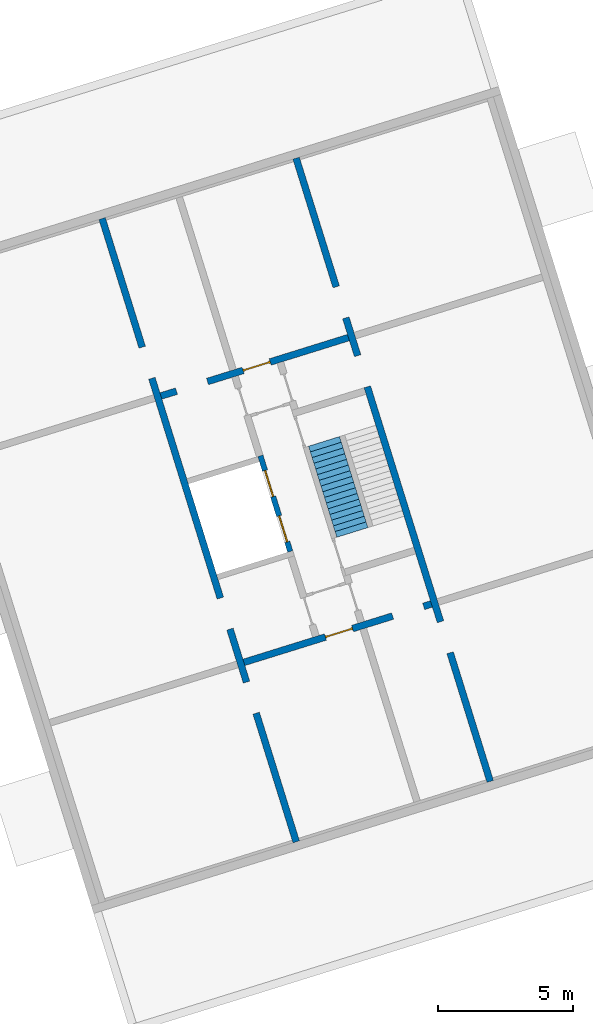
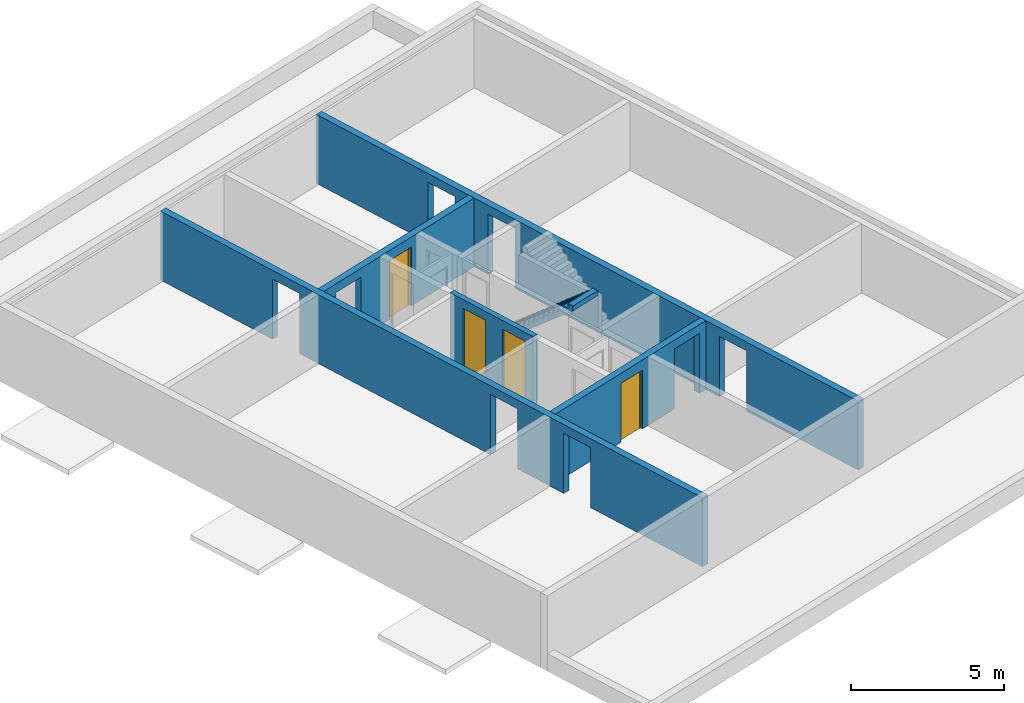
# One storey, part 3 of 4: 5 walls, 4 doors, 1 stair flight, 12 openings, 1 element without a shape of its own.
"""IFC4 building model written with IfcOpenShell, lengths in metres."""

from ifc_helpers import new_model, entity, si_unit, converted_unit, direction, frame, origin, place, context, subcontext, project, spatial, indexed_curve, outline, extrude, polygons, source, transform, mapped, material, constituent, constituent_set, type_object, type_shapes, element, fill, aggregate, save


model = new_model("IFC4")

# Units and contexts
model_context = context("Model", 3, precision=1e-05, world=origin(), true_north=direction((6.12323399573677e-17, 1.0)))
body_context = subcontext(model_context, "Body", "Model", "MODEL_VIEW")
ifc_project = project(units=[si_unit("LENGTHUNIT", "METRE"), si_unit("AREAUNIT", "SQUARE_METRE"), si_unit("VOLUMEUNIT", "CUBIC_METRE"), converted_unit("PLANEANGLEUNIT", "DEGREE", entity("IfcPlaneAngleMeasure", 0.0174532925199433), si_unit("PLANEANGLEUNIT", "RADIAN"), dimensions=[0, 0, 0, 0, 0, 0, 0])], contexts=[model_context])

# Site, building, storey
site_placement = place(None, frame((13.1347999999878, 11.9886000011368, 0.0), z_axis=(0.0, 0.0, 1.0), x_axis=(0.954770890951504, 0.297342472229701, 0.0)))
site = spatial("IfcSite", under=ifc_project, at=site_placement, Name="Schiehaven", CompositionType="ELEMENT")
building_placement = place(site_placement, origin())
building = spatial("IfcBuilding", under=site, at=building_placement, Name="VORM huis", CompositionType="ELEMENT")
storey_placement = place(building_placement, frame((0.0, 0.0, 6.9)))
storey = spatial("IfcBuildingStorey", under=building, at=storey_placement, Name="02 tweede verdieping", CompositionType="ELEMENT", Elevation=6.9)

# Wall, openings
ifc_material_1 = material(Name="beton_gewapend_ihw", Category="Miscellaneous")
wall_type_1 = type_object("IfcWallType", Name="Basic Wall:28_WA_skelet_wand 250mm_gen", PredefinedType="STANDARD")
wall_1_placement = place(storey_placement, frame((12.5, 5.0, 0.0), z_axis=(0.0, 0.0, 1.0), x_axis=(0.0, 1.0, 0.0)))
wall_1 = element("IfcWall", 1, at=wall_1_placement, inside=storey, type_object=wall_type_1, material=ifc_material_1, Name="Constructieve wand", ObjectType="Wand", PredefinedType="NOTDEFINED", context=body_context, shape_type="Tessellation", body=[
    polygons([(24.1, -0.125, 1.08286712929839e-15), (24.1, -0.125, 2.75), (17.325, -0.124999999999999, 2.75), (17.075, -0.125, 2.75), (7.025, -0.124999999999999, 2.75), (6.775, -0.125, 2.75), (2.16573425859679e-15, -0.124999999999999, 2.75), (2.16573425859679e-15, -0.124999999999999, 1.08286712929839e-15), (4.975, -0.124999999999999, 1.08286712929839e-15), (4.975, -0.124999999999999, 2.4), (6.175, -0.124999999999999, 2.4), (6.175, -0.124999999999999, 1.08286712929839e-15), (6.775, -0.125, 0.0), (7.025, -0.124999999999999, 0.0), (8.22500000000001, -0.124999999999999, 1.08286712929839e-15), (8.22500000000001, -0.124999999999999, 2.4), (9.425, -0.124999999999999, 2.4), (9.425, -0.124999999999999, 1.08286712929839e-15), (17.075, -0.125, 0.0), (17.325, -0.124999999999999, 0.0), (17.925, -0.125, 1.08286712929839e-15), (17.925, -0.125, 2.4), (19.125, -0.125, 2.4), (19.125, -0.125, 1.08286712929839e-15), (24.1, 0.125, 2.75), (24.1, 0.125, 1.08286712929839e-15), (19.125, 0.125, 1.08286712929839e-15), (19.125, 0.125, 2.4), (17.925, 0.125, 2.4), (17.925, 0.125, 1.08286712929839e-15), (9.425, 0.125, 1.08286712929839e-15), (9.425, 0.125, 2.4), (8.225, 0.125, 2.4), (8.225, 0.125, 1.08286712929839e-15), (6.175, 0.125, 1.08286712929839e-15), (6.175, 0.125, 2.4), (4.975, 0.125000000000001, 2.4), (4.975, 0.125000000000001, 1.08286712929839e-15), (1.08286712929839e-15, 0.125, 1.08286712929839e-15), (0.0, 0.125, 2.75)], [[[1, 2, 3, 4, 5, 6, 7, 8, 9, 10, 11, 12, 13, 14, 15, 16, 17, 18, 19, 20, 21, 22, 23, 24]], [[25, 26, 27, 28, 29, 30, 31, 32, 33, 34, 35, 36, 37, 38, 39, 40]], [[8, 39, 38, 9]], [[2, 1, 26, 25]], [[7, 6, 5, 4, 3, 2, 25, 40]], [[8, 7, 40, 39]], [[10, 37, 36, 11]], [[37, 10, 9, 38]], [[11, 36, 35, 12]], [[16, 33, 32, 17]], [[33, 16, 15, 34]], [[17, 32, 31, 18]], [[22, 29, 28, 23]], [[29, 22, 21, 30]], [[23, 28, 27, 24]], [[12, 35, 34, 15, 14, 13]], [[18, 31, 30, 21, 20, 19]], [[26, 1, 24, 27]]], closed=True),
])
opening_1_placement = place(wall_1_placement, origin())
element("IfcOpeningElement", 2, at=opening_1_placement, cuts=wall_1, Name="Constructieve wand", PredefinedType="OPENING", context=body_context, shape_type="SweptSolid", body=[
    extrude(outline(indexed_curve([(-1.2, -0.599999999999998), (1.2, -0.599999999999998), (1.2, 0.599999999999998), (-1.2, 0.599999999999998), (-1.2, -0.599999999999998)], self_intersect=False)), frame((5.575, -0.124999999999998, 1.2), z_axis=(0.0, 1.0, 0.0), x_axis=(0.0, 0.0, -1.0)), (0.0, 0.0, 1.0), 0.249999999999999),
])
opening_2_placement = place(wall_1_placement, origin())
element("IfcOpeningElement", 3, at=opening_2_placement, cuts=wall_1, Name="Constructieve wand", PredefinedType="OPENING", context=body_context, shape_type="SweptSolid", body=[
    extrude(outline(indexed_curve([(-1.2, -0.599999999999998), (1.2, -0.599999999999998), (1.2, 0.599999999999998), (-1.2, 0.599999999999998), (-1.2, -0.599999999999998)], self_intersect=False)), frame((8.82500000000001, -0.124999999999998, 1.2), z_axis=(0.0, 1.0, 0.0), x_axis=(0.0, 0.0, -1.0)), (0.0, 0.0, 1.0), 0.249999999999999),
])
opening_3_placement = place(wall_1_placement, origin())
element("IfcOpeningElement", 4, at=opening_3_placement, cuts=wall_1, Name="Constructieve wand", PredefinedType="OPENING", context=body_context, shape_type="SweptSolid", body=[
    extrude(outline(indexed_curve([(-1.2, -0.599999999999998), (1.2, -0.599999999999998), (1.2, 0.600000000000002), (-1.2, 0.600000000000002), (-1.2, -0.599999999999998)], self_intersect=False)), frame((18.525, -0.124999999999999, 1.2), z_axis=(0.0, 1.0, 0.0), x_axis=(0.0, 0.0, -1.0)), (0.0, 0.0, 1.0), 0.249999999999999),
])

# Wall, openings, door
wall_2_placement = place(storey_placement, frame((12.6250000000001, 22.2, 0.0)))
wall_2 = element("IfcWall", 5, at=wall_2_placement, inside=storey, type_object=wall_type_1, material=ifc_material_1, Name="Constructieve wand", ObjectType="Wand", PredefinedType="NOTDEFINED", context=body_context, shape_type="Tessellation", body=[
    polygons([(4.225, -0.124999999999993, 2.34999999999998), (4.225, -0.124999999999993, 1.08286712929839e-15), (7.25, -0.124999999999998, 1.08286712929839e-15), (7.25, -0.124999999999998, 2.75), (8.76648531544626e-16, -0.124999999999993, 2.75), (3.04238279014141e-15, -0.124999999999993, 1.08286712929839e-15), (0.600000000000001, -0.124999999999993, 1.08286712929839e-15), (0.600000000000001, -0.124999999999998, 2.4), (1.8, -0.124999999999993, 2.4), (1.8, -0.124999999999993, 1.08286712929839e-15), (3.175, -0.124999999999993, 1.08286712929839e-15), (3.175, -0.124999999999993, 2.34999999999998), (7.25000000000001, 0.125000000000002, 1.08286712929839e-15), (4.225, 0.125000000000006, 1.08286712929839e-15), (4.225, 0.125000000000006, 2.34999999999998), (3.175, 0.125000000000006, 2.34999999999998), (3.175, 0.125000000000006, 1.08286712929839e-15), (1.8, 0.125000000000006, 1.08286712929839e-15), (1.8, 0.125000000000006, 2.4), (0.6, 0.125000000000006, 2.4), (0.6, 0.125000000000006, 1.08286712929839e-15), (2.09575778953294e-15, 0.125000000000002, 1.08286712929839e-15), (2.09575778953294e-15, 0.125000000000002, 2.75), (7.25000000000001, 0.125000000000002, 2.75)], [[[1, 2, 3, 4, 5, 6, 7, 8, 9, 10, 11, 12]], [[13, 14, 15, 16, 17, 18, 19, 20, 21, 22, 23, 24]], [[6, 22, 21, 7]], [[5, 4, 24, 23]], [[17, 16, 12, 11]], [[15, 14, 2, 1]], [[16, 15, 1, 12]], [[20, 8, 7, 21]], [[9, 19, 18, 10]], [[8, 20, 19, 9]], [[6, 5, 23, 22]], [[4, 3, 13, 24]], [[11, 10, 18, 17]], [[3, 2, 14, 13]]], closed=True),
])
opening_4_placement = place(wall_2_placement, origin())
element("IfcOpeningElement", 6, at=opening_4_placement, cuts=wall_2, Name="Constructieve wand", PredefinedType="OPENING", context=body_context, shape_type="SweptSolid", body=[
    extrude(outline(indexed_curve([(-1.2, -0.6), (1.2, -0.6), (1.2, 0.6), (-1.2, 0.6), (-1.2, -0.6)], self_intersect=False)), frame((1.2, -0.125000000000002, 1.2), z_axis=(0.0, 1.0, 0.0), x_axis=(0.0, 0.0, -1.0)), (0.0, 0.0, 1.0), 0.250000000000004),
])
opening_5_placement = place(wall_2_placement, frame((4.225, 0.124999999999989, 0.0)))
opening_5 = element("IfcOpeningElement", 7, at=opening_5_placement, cuts=wall_2, Name="Woningtoegangsdeur", PredefinedType="OPENING", context=body_context, shape_type="SweptSolid", body=[
    extrude(outline(indexed_curve([(2.34999999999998, 1.05), (0.0, 1.05), (0.0, 1.08286712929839e-15), (2.34999999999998, 1.08286712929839e-15), (2.34999999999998, 1.05)], self_intersect=False)), frame((0.0, 0.0, 0.0), z_axis=(0.0, -1.0, 0.0), x_axis=(0.0, 0.0, 1.0)), (0.0, 0.0, 1.0), 0.25),
])
ifc_material_2 = material(Name="PD_a_binnenwandopeningen", Category="Miscellaneous")
ifc_constituent_1 = constituent(ifc_material_2, Name="PD_a_binnenwandopeningen", Category="Miscellaneous")
ifc_material_3 = material(Name="metaal_aluminium_ntb", Category="Miscellaneous")
ifc_constituent_2 = constituent(ifc_material_3, Name="metaal_aluminium_ntb", Category="Miscellaneous")
ifc_constituent_set_1 = constituent_set(constituents=[ifc_constituent_1, ifc_constituent_2])
ifc_constituent_3 = constituent(ifc_material_2, Name="PD_a_binnenwandopeningen", Category="Miscellaneous")
ifc_constituent_4 = constituent(ifc_material_3, Name="Panel", Category="Miscellaneous")
ifc_constituent_set_2 = constituent_set(constituents=[ifc_constituent_3, ifc_constituent_4])
door_type_1 = type_object("IfcDoorType", Name="32_DO_binnendeur enkel:woningtoegangsdeur", OperationType="REVOLVING", PredefinedType="DOOR", material=ifc_constituent_set_2)
shared_shape_1 = source(origin(), body_context, "Body", "SweptSolid", [
    extrude(outline(indexed_curve([(-1.16249999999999, -0.525000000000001), (1.18749999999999, -0.525), (1.18749999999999, 0.525000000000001), (-1.16249999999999, 0.525000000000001), (-1.16249999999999, 0.475), (1.13749999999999, 0.475), (1.13749999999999, -0.475), (-1.16249999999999, -0.475), (-1.16249999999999, -0.525000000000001)], self_intersect=False)), frame((0.525000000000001, 0.0749999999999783, 1.16249999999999), z_axis=(0.0, 1.0, 0.0), x_axis=(0.0, 0.0, 1.0)), (0.0, 0.0, 1.0), 0.1),
    extrude(outline(indexed_curve([(-0.025, -0.475), (0.025, -0.475), (0.025, 0.475), (-0.025, 0.475), (-0.025, -0.475)], self_intersect=False)), frame((0.525000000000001, 0.12499999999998, 0.0), z_axis=(0.0, 0.0, 1.0), x_axis=(0.0, 1.0, 0.0)), (0.0, 0.0, 1.0), 2.29999999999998),
])
type_shapes(door_type_1, [shared_shape_1])
door_1_placement = place(opening_5_placement, frame((0.0, 0.0, 0.0), z_axis=(0.0, 0.0, 1.0), x_axis=(-1.0, 0.0, 0.0)))
door_1 = element("IfcDoor", 8, at=door_1_placement, inside=storey, type_object=door_type_1, material=ifc_constituent_set_1, Name="Woningtoegangsdeur", ObjectType="Deur", OperationType="REVOLVING", OverallHeight=2.34999999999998, OverallWidth=1.05, PredefinedType="DOOR", context=body_context, shape_type="MappedRepresentation", body=[
    mapped(shared_shape_1, transform((0.0, 0.0, 0.0), scale=1.0)),
])
fill(opening_5, door_1)

# Wall, openings
wall_3_placement = place(storey_placement, frame((20.0, 29.1, 0.0), z_axis=(0.0, 0.0, 1.0), x_axis=(0.0, -1.0, 0.0)))
wall_3 = element("IfcWall", 9, at=wall_3_placement, inside=storey, type_object=wall_type_1, material=ifc_material_1, Name="Constructieve wand", ObjectType="Wand", PredefinedType="NOTDEFINED", context=body_context, shape_type="Tessellation", body=[
    polygons([(24.1, -0.124999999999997, 1.08286712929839e-15), (24.1, -0.124999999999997, 2.75), (17.325, -0.124999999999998, 2.75), (17.075, -0.125, 2.75), (7.02499999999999, -0.124999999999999, 2.75), (6.77499999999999, -0.124999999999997, 2.75), (0.0, -0.124999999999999, 2.75), (0.0, -0.124999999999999, 1.08286712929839e-15), (4.975, -0.125, 1.08286712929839e-15), (4.975, -0.125000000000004, 2.4), (6.175, -0.124999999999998, 2.4), (6.175, -0.124999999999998, 1.08286712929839e-15), (6.77499999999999, -0.124999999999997, 0.0), (7.02499999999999, -0.124999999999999, 0.0), (7.64, -0.124999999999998, 1.08286712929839e-15), (7.64, -0.124999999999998, 2.4), (8.84, -0.124999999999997, 2.4), (8.84, -0.124999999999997, 1.08286712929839e-15), (17.075, -0.125, 0.0), (17.325, -0.124999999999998, 0.0), (17.925, -0.124999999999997, 1.08286712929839e-15), (17.925, -0.124999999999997, 2.4), (19.125, -0.125000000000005, 2.4), (19.125, -0.124999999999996, 1.08286712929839e-15), (24.1, 0.125000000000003, 2.75), (24.1, 0.125000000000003, 1.08286712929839e-15), (19.125, 0.124999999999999, 1.08286712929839e-15), (19.125, 0.124999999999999, 2.4), (17.925, 0.125000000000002, 2.4), (17.925, 0.125000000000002, 1.08286712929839e-15), (8.83999999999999, 0.125000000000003, 1.08286712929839e-15), (8.83999999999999, 0.125000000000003, 2.4), (7.64, 0.125000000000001, 2.4), (7.64, 0.125000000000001, 1.08286712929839e-15), (6.17499999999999, 0.125000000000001, 1.08286712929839e-15), (6.17499999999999, 0.125000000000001, 2.4), (4.975, 0.125, 2.4), (4.975, 0.125, 1.08286712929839e-15), (-4.33146851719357e-15, 0.125000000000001, 1.08286712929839e-15), (-4.33146851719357e-15, 0.125000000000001, 2.75)], [[[1, 2, 3, 4, 5, 6, 7, 8, 9, 10, 11, 12, 13, 14, 15, 16, 17, 18, 19, 20, 21, 22, 23, 24]], [[25, 26, 27, 28, 29, 30, 31, 32, 33, 34, 35, 36, 37, 38, 39, 40]], [[8, 39, 38, 9]], [[2, 1, 26, 25]], [[7, 6, 5, 4, 3, 2, 25, 40]], [[8, 7, 40, 39]], [[10, 37, 36, 11]], [[37, 10, 9, 38]], [[11, 36, 35, 12]], [[16, 33, 32, 17]], [[33, 16, 15, 34]], [[17, 32, 31, 18]], [[22, 29, 28, 23]], [[29, 22, 21, 30]], [[23, 28, 27, 24]], [[12, 35, 34, 15, 14, 13]], [[18, 31, 30, 21, 20, 19]], [[26, 1, 24, 27]]], closed=True),
])
opening_6_placement = place(wall_3_placement, origin())
element("IfcOpeningElement", 10, at=opening_6_placement, cuts=wall_3, Name="Constructieve wand", PredefinedType="OPENING", context=body_context, shape_type="SweptSolid", body=[
    extrude(outline(indexed_curve([(-1.2, -0.599999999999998), (1.2, -0.599999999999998), (1.2, 0.599999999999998), (-1.2, 0.599999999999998), (-1.2, -0.599999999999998)], self_intersect=False)), frame((5.575, -0.125000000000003, 1.2), z_axis=(0.0, 1.0, 0.0), x_axis=(0.0, 0.0, -1.0)), (0.0, 0.0, 1.0), 0.250000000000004),
])
opening_7_placement = place(wall_3_placement, origin())
element("IfcOpeningElement", 11, at=opening_7_placement, cuts=wall_3, Name="Constructieve wand", PredefinedType="OPENING", context=body_context, shape_type="SweptSolid", body=[
    extrude(outline(indexed_curve([(-1.2, -0.599999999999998), (1.2, -0.599999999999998), (1.2, 0.599999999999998), (-1.2, 0.599999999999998), (-1.2, -0.599999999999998)], self_intersect=False)), frame((8.24, -0.125000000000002, 1.2), z_axis=(0.0, 1.0, 0.0), x_axis=(0.0, 0.0, -1.0)), (0.0, 0.0, 1.0), 0.250000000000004),
])
opening_8_placement = place(wall_3_placement, origin())
element("IfcOpeningElement", 12, at=opening_8_placement, cuts=wall_3, Name="Constructieve wand", PredefinedType="OPENING", context=body_context, shape_type="SweptSolid", body=[
    extrude(outline(indexed_curve([(-1.2, -0.599999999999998), (1.2, -0.599999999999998), (1.2, 0.599999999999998), (-1.2, 0.599999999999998), (-1.2, -0.599999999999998)], self_intersect=False)), frame((18.525, -0.125000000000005, 1.2), z_axis=(0.0, 1.0, 0.0), x_axis=(0.0, 0.0, -1.0)), (0.0, 0.0, 1.0), 0.250000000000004),
])

# Wall, openings, door
wall_4_placement = place(storey_placement, frame((19.875, 11.9, 0.0), z_axis=(0.0, 0.0, 1.0), x_axis=(-1.0, 0.0, 0.0)))
wall_4 = element("IfcWall", 13, at=wall_4_placement, inside=storey, type_object=wall_type_1, material=ifc_material_1, Name="Constructieve wand", ObjectType="Wand", PredefinedType="NOTDEFINED", context=body_context, shape_type="Tessellation", body=[
    polygons([(4.09999999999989, -0.125, 2.34999999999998), (4.09999999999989, -0.125, 1.08286712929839e-15), (7.24999999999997, -0.125, 1.08286712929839e-15), (7.24999999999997, -0.125, 2.75), (-7.13030427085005e-16, -0.125, 2.75), (-7.13030427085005e-16, -0.125, 1.08286712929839e-15), (0.299999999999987, -0.125, 1.08286712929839e-15), (0.299999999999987, -0.125, 2.4), (1.49999999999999, -0.125, 2.4), (1.49999999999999, -0.125, 1.08286712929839e-15), (3.04999999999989, -0.125, 1.08286712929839e-15), (3.04999999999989, -0.125, 2.34999999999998), (7.24999999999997, 0.125, 1.08286712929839e-15), (4.09999999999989, 0.125, 1.08286712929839e-15), (4.09999999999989, 0.125, 2.34999999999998), (3.04999999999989, 0.125, 2.34999999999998), (3.04999999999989, 0.125, 1.08286712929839e-15), (1.49999999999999, 0.125, 1.08286712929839e-15), (1.49999999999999, 0.125, 2.4), (0.299999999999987, 0.125, 2.4), (0.299999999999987, 0.125, 1.08286712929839e-15), (-8.78309150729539e-16, 0.125, 1.08286712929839e-15), (-8.78309150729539e-16, 0.125, 2.75), (7.24999999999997, 0.125, 2.75)], [[[1, 2, 3, 4, 5, 6, 7, 8, 9, 10, 11, 12]], [[13, 14, 15, 16, 17, 18, 19, 20, 21, 22, 23, 24]], [[6, 22, 21, 7]], [[5, 4, 24, 23]], [[17, 16, 12, 11]], [[15, 14, 2, 1]], [[16, 15, 1, 12]], [[4, 3, 13, 24]], [[6, 5, 23, 22]], [[8, 20, 19, 9]], [[20, 8, 7, 21]], [[9, 19, 18, 10]], [[11, 10, 18, 17]], [[3, 2, 14, 13]]], closed=True),
])
opening_9_placement = place(wall_4_placement, origin())
element("IfcOpeningElement", 14, at=opening_9_placement, cuts=wall_4, Name="Constructieve wand", PredefinedType="OPENING", context=body_context, shape_type="SweptSolid", body=[
    extrude(outline(indexed_curve([(-1.2, -0.599999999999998), (1.2, -0.599999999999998), (1.2, 0.600000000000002), (-1.2, 0.600000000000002), (-1.2, -0.599999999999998)], self_intersect=False)), frame((0.89999999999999, -0.125, 1.2), z_axis=(0.0, 1.0, 0.0), x_axis=(0.0, 0.0, -1.0)), (0.0, 0.0, 1.0), 0.249999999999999),
])
opening_10_placement = place(wall_4_placement, frame((4.09999999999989, 0.124999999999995, 0.0)))
opening_10 = element("IfcOpeningElement", 15, at=opening_10_placement, cuts=wall_4, Name="Woningtoegangsdeur", PredefinedType="OPENING", context=body_context, shape_type="SweptSolid", body=[
    extrude(outline(indexed_curve([(2.34999999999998, 1.05), (0.0, 1.05), (0.0, 1.08286712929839e-15), (2.34999999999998, 1.08286712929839e-15), (2.34999999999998, 1.05)], self_intersect=False)), frame((0.0, 0.0, 0.0), z_axis=(0.0, -1.0, 0.0), x_axis=(0.0, 0.0, 1.0)), (0.0, 0.0, 1.0), 0.25),
])
ifc_constituent_5 = constituent(ifc_material_2, Name="PD_a_binnenwandopeningen", Category="Miscellaneous")
ifc_constituent_6 = constituent(ifc_material_3, Name="metaal_aluminium_ntb", Category="Miscellaneous")
ifc_constituent_set_3 = constituent_set(constituents=[ifc_constituent_5, ifc_constituent_6])
door_2_placement = place(opening_10_placement, frame((0.0, 0.0, 0.0), z_axis=(0.0, 0.0, 1.0), x_axis=(-1.0, 0.0, 0.0)))
door_2 = element("IfcDoor", 16, at=door_2_placement, inside=storey, type_object=door_type_1, material=ifc_constituent_set_3, Name="Woningtoegangsdeur", ObjectType="Deur", OperationType="REVOLVING", OverallHeight=2.34999999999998, OverallWidth=1.05, PredefinedType="DOOR", context=body_context, shape_type="MappedRepresentation", body=[
    mapped(shared_shape_1, transform((0.0, 0.0, 0.0), scale=1.0)),
])
fill(opening_10, door_2)

# Wall, openings, doors
ifc_material_4 = material(Name="beton_gewapend_prefab-element", Category="Miscellaneous")
wall_type_2 = type_object("IfcWallType", Name="Basic Wall:28_WA_skelet_wand 200mm_gen", PredefinedType="STANDARD")
wall_5_placement = place(storey_placement, frame((15.4750000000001, 15.3, 0.0), z_axis=(0.0, 0.0, 1.0), x_axis=(0.0, 1.0, 0.0)))
wall_5 = element("IfcWall", 17, at=wall_5_placement, inside=storey, type_object=wall_type_2, material=ifc_material_4, Name="Constructieve wand", ObjectType="Wand", PredefinedType="NOTDEFINED", context=body_context, shape_type="Tessellation", body=[
    polygons([(3.69999999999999, -0.100000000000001, 2.75), (0.0, -0.100000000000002, 2.75), (0.0, -0.100000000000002, 1.08286712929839e-15), (0.374999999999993, -0.0999999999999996, 1.08286712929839e-15), (0.374999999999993, -0.100000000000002, 2.39999999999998), (1.37499999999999, -0.100000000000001, 2.39999999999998), (1.37499999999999, -0.100000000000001, 1.08286712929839e-15), (2.125, -0.100000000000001, 1.08286712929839e-15), (2.125, -0.100000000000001, 2.39999999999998), (3.125, -0.100000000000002, 2.39999999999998), (3.12499999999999, -0.1, 1.08286712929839e-15), (3.69999999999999, -0.100000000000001, 1.08286712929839e-15), (2.16573425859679e-15, 0.0999999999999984, 2.75), (3.49999999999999, 0.0999999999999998, 2.75), (3.69999999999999, 0.0999999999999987, 2.75), (3.69999999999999, 0.0999999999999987, 1.08286712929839e-15), (3.49999999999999, 0.0999999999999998, 0.0), (3.125, 0.0999999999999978, 1.08286712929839e-15), (3.125, 0.0999999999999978, 2.39999999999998), (2.125, 0.0999999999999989, 2.39999999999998), (2.125, 0.0999999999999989, 1.08286712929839e-15), (1.37499999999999, 0.100000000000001, 1.08286712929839e-15), (1.37499999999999, 0.100000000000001, 2.39999999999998), (0.374999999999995, 0.0999999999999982, 2.39999999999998), (0.374999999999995, 0.0999999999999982, 1.08286712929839e-15), (0.0, 0.0999999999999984, 1.08286712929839e-15)], [[[1, 2, 3, 4, 5, 6, 7, 8, 9, 10, 11, 12]], [[13, 14, 15, 16, 17, 18, 19, 20, 21, 22, 23, 24, 25, 26]], [[3, 26, 25, 4]], [[2, 1, 15, 14, 13]], [[3, 2, 13, 26]], [[1, 12, 16, 15]], [[6, 23, 22, 7]], [[24, 5, 4, 25]], [[23, 6, 5, 24]], [[10, 19, 18, 11]], [[20, 9, 8, 21]], [[19, 10, 9, 20]], [[7, 22, 21, 8]], [[16, 12, 11, 18, 17]]], closed=True),
])
opening_11_placement = place(wall_5_placement, frame((-15.3, 15.4750000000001, 0.0), z_axis=(0.0, 0.0, 1.0), x_axis=(0.0, -1.0, 0.0)))
opening_11 = element("IfcOpeningElement", 18, at=opening_11_placement, cuts=wall_5, Name="Brandweerlift", PredefinedType="OPENING", context=body_context, shape_type="SweptSolid", body=[
    extrude(outline(indexed_curve([(-1.19999999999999, -0.499999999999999), (1.19999999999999, -0.499999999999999), (1.19999999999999, 0.500000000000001), (-1.19999999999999, 0.500000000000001), (-1.19999999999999, -0.499999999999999)], self_intersect=False)), frame((15.7436720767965, 16.175, 1.19999999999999), z_axis=(-1.0, 0.0, 0.0), x_axis=(0.0, 0.0, -1.0)), (0.0, 0.0, 1.0), 0.756310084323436),
])
opening_12_placement = place(wall_5_placement, frame((-15.3, 15.4750000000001, 0.0), z_axis=(0.0, 0.0, 1.0), x_axis=(0.0, -1.0, 0.0)))
opening_12 = element("IfcOpeningElement", 19, at=opening_12_placement, cuts=wall_5, Name="Brandweerlift", PredefinedType="OPENING", context=body_context, shape_type="SweptSolid", body=[
    extrude(outline(indexed_curve([(-1.19999999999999, -0.500000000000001), (1.19999999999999, -0.500000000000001), (1.19999999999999, 0.499999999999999), (-1.19999999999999, 0.499999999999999), (-1.19999999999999, -0.500000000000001)], self_intersect=False)), frame((15.7436720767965, 17.925, 1.19999999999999), z_axis=(-1.0, 0.0, 0.0), x_axis=(0.0, 0.0, -1.0)), (0.0, 0.0, 1.0), 0.756310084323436),
])
door_type_2 = type_object("IfcDoorType", Name="66_WI_liftdeur:brandweerlift - tweezijdig toegankelijk", OperationType="NOTDEFINED", PredefinedType="DOOR", material=ifc_material_3)
shared_shape_2 = source(origin(), body_context, "Body", "SweptSolid", [
    extrude(outline(indexed_curve([(-0.0250000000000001, -0.25), (0.0249999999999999, -0.25), (0.0250000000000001, 0.25), (-0.0249999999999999, 0.25), (-0.0250000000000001, -0.25)], self_intersect=False)), frame((0.250000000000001, 0.487638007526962, 0.0), z_axis=(0.0, 0.0, 1.0), x_axis=(0.0, 1.0, 0.0)), (0.0, 0.0, 1.0), 2.39999999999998),
    extrude(outline(indexed_curve([(-0.0250000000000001, -0.25), (0.0249999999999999, -0.25), (0.0250000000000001, 0.25), (-0.0249999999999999, 0.25), (-0.0250000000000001, -0.25)], self_intersect=False)), frame((0.750000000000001, 0.48763800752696, 0.0), z_axis=(0.0, 0.0, 1.0), x_axis=(0.0, 1.0, 0.0)), (0.0, 0.0, 1.0), 2.39999999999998),
])
type_shapes(door_type_2, [shared_shape_2])
door_3_placement = place(opening_11_placement, frame((14.9873619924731, 16.675, 0.0), z_axis=(0.0, 0.0, 1.0), x_axis=(0.0, -1.0, 0.0)))
door_3 = element("IfcDoor", 20, at=door_3_placement, inside=storey, type_object=door_type_2, material=ifc_material_3, Name="Brandweerlift", ObjectType="Transport", OperationType="NOTDEFINED", OverallHeight=2.39999999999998, OverallWidth=1.0, PredefinedType="DOOR", context=body_context, shape_type="MappedRepresentation", body=[
    mapped(shared_shape_2, transform((0.0, 0.0, 0.0), scale=1.0)),
])
fill(opening_11, door_3)
door_4_placement = place(opening_12_placement, frame((14.9873619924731, 18.425, 0.0), z_axis=(0.0, 0.0, 1.0), x_axis=(0.0, -1.0, 0.0)))
door_4 = element("IfcDoor", 21, at=door_4_placement, inside=storey, type_object=door_type_2, material=ifc_material_3, Name="Brandweerlift", ObjectType="Transport", OperationType="NOTDEFINED", OverallHeight=2.39999999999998, OverallWidth=1.0, PredefinedType="DOOR", context=body_context, shape_type="MappedRepresentation", body=[
    mapped(shared_shape_2, transform((0.0, 0.0, 0.0), scale=1.0)),
])
fill(opening_12, door_4)

# Stair, stair flight
stair_type = type_object("IfcStairType", Name="Trap", PredefinedType="STRAIGHT_RUN_STAIR")
stair_placement = place(storey_placement, origin())
stair = element("IfcStair", 22, at=stair_placement, inside=storey, type_object=stair_type, Name="Hoofdtrap", ObjectType="Trap", PredefinedType="STRAIGHT_RUN_STAIR")
stair_flight_type = type_object("IfcStairFlightType", Name="Monolithic Run:NLRS_24_STRR_trap-beton prefab-monolithisch-recht_gen_rsf", PredefinedType="STRAIGHT")
stair_flight_placement = place(stair_placement, frame((17.2750000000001, 15.29, 0.0)))
stair_flight = element("IfcStairFlight", 23, at=stair_flight_placement, type_object=stair_flight_type, material=ifc_material_4, Name="Hoofdtrap Run 1", ObjectType="Monolithic Run:NLRS_24_STRR_trap-beton prefab-monolithisch-recht_gen_rsf", PredefinedType="STRAIGHT", context=body_context, shape_type="Tessellation", body=[
    polygons([(1.20000000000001, 3.3, 0.1875), (1.20000000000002, 3.52, 0.1875), (1.77635683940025e-14, 3.52, 0.1875), (1.77635683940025e-14, 3.30000000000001, 0.1875), (1.20000000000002, 3.29999999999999, 1.77635683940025e-15), (1.20000000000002, 3.52, 1.77635683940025e-15), (1.77635683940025e-14, 3.52, 1.77635683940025e-15), (1.77635683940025e-14, 3.30000000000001, 1.77635683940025e-15), (1.20000000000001, 3.08, 0.375000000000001), (1.20000000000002, 3.30000000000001, 0.375000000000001), (1.77635683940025e-14, 3.30000000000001, 0.375000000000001), (1.77635683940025e-14, 3.08000000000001, 0.375000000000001), (1.20000000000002, 3.08000000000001, 0.177912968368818), (1.20000000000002, 3.28875121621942, 1.77635683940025e-15), (1.77635683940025e-14, 3.28875121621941, 1.77635683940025e-15), (1.77635683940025e-14, 3.08000000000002, 0.177912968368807), (1.20000000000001, 2.86, 0.5625), (1.20000000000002, 3.08, 0.5625), (1.4210854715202e-14, 3.08, 0.5625), (1.4210854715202e-14, 2.86000000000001, 0.5625), (1.20000000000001, 2.86, 0.365412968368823), (1.4210854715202e-14, 2.86000000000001, 0.36541296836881), (1.20000000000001, 2.64, 0.750000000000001), (1.20000000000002, 2.86000000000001, 0.750000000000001), (1.4210854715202e-14, 2.86000000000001, 0.750000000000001), (1.4210854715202e-14, 2.64000000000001, 0.750000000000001), (1.20000000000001, 2.64, 0.55291296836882), (1.4210854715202e-14, 2.64000000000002, 0.552912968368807), (1.20000000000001, 2.42, 0.937500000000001), (1.20000000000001, 2.64, 0.937500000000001), (1.06581410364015e-14, 2.64, 0.937500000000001), (1.06581410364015e-14, 2.42000000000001, 0.937500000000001), (1.20000000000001, 2.41999999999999, 0.740412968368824), (1.06581410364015e-14, 2.42000000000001, 0.740412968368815), (1.20000000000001, 2.2, 1.125), (1.20000000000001, 2.42000000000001, 1.125), (1.06581410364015e-14, 2.42000000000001, 1.125), (1.06581410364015e-14, 2.20000000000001, 1.125), (1.20000000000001, 2.2, 0.927912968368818), (1.06581410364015e-14, 2.20000000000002, 0.927912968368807), (1.20000000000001, 1.98, 1.3125), (1.20000000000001, 2.2, 1.3125), (1.06581410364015e-14, 2.2, 1.3125), (1.06581410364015e-14, 1.98000000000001, 1.3125), (1.20000000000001, 1.97999999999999, 1.11541296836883), (1.06581410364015e-14, 1.98000000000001, 1.11541296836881), (1.20000000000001, 1.76, 1.5), (1.20000000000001, 1.98000000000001, 1.5), (1.06581410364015e-14, 1.98000000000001, 1.5), (1.06581410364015e-14, 1.76000000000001, 1.5), (1.20000000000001, 1.76000000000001, 1.30291296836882), (7.105427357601e-15, 1.76000000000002, 1.30291296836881), (1.20000000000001, 1.54, 1.6875), (1.20000000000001, 1.76, 1.6875), (7.105427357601e-15, 1.76, 1.6875), (7.105427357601e-15, 1.54000000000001, 1.6875), (1.2, 1.54, 1.49041296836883), (7.105427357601e-15, 1.54000000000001, 1.49041296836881), (1.20000000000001, 1.32, 1.875), (1.20000000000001, 1.54000000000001, 1.875), (7.105427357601e-15, 1.54000000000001, 1.875), (7.105427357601e-15, 1.32000000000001, 1.875), (1.2, 1.32, 1.67791296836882), (7.105427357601e-15, 1.32000000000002, 1.67791296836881), (1.2, 1.1, 2.0625), (1.2, 1.32, 2.0625), (7.105427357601e-15, 1.32, 2.0625), (7.105427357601e-15, 1.10000000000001, 2.0625), (1.2, 1.1, 1.86541296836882), (7.105427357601e-15, 1.10000000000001, 1.86541296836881), (1.2, 0.880000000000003, 2.25), (1.2, 1.10000000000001, 2.25), (7.105427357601e-15, 1.10000000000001, 2.25), (7.105427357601e-15, 0.88000000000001, 2.25), (1.2, 0.880000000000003, 2.05291296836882), (7.105427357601e-15, 0.880000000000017, 2.05291296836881), (1.2, 0.660000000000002, 2.4375), (1.2, 0.880000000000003, 2.4375), (3.5527136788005e-15, 0.880000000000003, 2.4375), (3.5527136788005e-15, 0.660000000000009, 2.4375), (1.2, 0.659999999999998, 2.24041296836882), (3.5527136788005e-15, 0.660000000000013, 2.24041296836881), (1.2, 0.440000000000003, 2.625), (1.2, 0.660000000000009, 2.625), (3.5527136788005e-15, 0.660000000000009, 2.625), (3.5527136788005e-15, 0.440000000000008, 2.625), (1.2, 0.440000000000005, 2.42791296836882), (3.5527136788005e-15, 0.440000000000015, 2.42791296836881), (1.2, 0.220000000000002, 2.8125), (1.2, 0.440000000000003, 2.8125), (0.0, 0.440000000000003, 2.8125), (0.0, 0.22000000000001, 2.8125), (1.2, 0.220000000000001, 2.61541296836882), (0.0, 0.220000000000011, 2.61541296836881), (1.2, 0.0, 3.0), (1.2, 0.22000000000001, 3.0), (0.0, 0.22000000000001, 3.0), (0.0, 1.06581410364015e-14, 3.0), (1.2, 0.0, 2.80291296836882), (0.0, 1.59872115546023e-14, 2.80291296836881)], [[[1, 2, 3, 4]], [[2, 1, 5, 6]], [[3, 2, 6, 7]], [[4, 3, 7, 8]], [[9, 10, 11, 12]], [[5, 1, 10, 9, 13, 14]], [[1, 4, 11, 10]], [[4, 8, 15, 16, 12, 11]], [[17, 18, 19, 20]], [[18, 17, 21, 13, 9]], [[9, 12, 19, 18]], [[20, 19, 12, 16, 22]], [[23, 24, 25, 26]], [[24, 23, 27, 21, 17]], [[17, 20, 25, 24]], [[26, 25, 20, 22, 28]], [[29, 30, 31, 32]], [[30, 29, 33, 27, 23]], [[23, 26, 31, 30]], [[32, 31, 26, 28, 34]], [[35, 36, 37, 38]], [[36, 35, 39, 33, 29]], [[29, 32, 37, 36]], [[38, 37, 32, 34, 40]], [[41, 42, 43, 44]], [[42, 41, 45, 39, 35]], [[35, 38, 43, 42]], [[44, 43, 38, 40, 46]], [[47, 48, 49, 50]], [[48, 47, 51, 45, 41]], [[41, 44, 49, 48]], [[50, 49, 44, 46, 52]], [[53, 54, 55, 56]], [[54, 53, 57, 51, 47]], [[47, 50, 55, 54]], [[56, 55, 50, 52, 58]], [[59, 60, 61, 62]], [[60, 59, 63, 57, 53]], [[53, 56, 61, 60]], [[62, 61, 56, 58, 64]], [[65, 66, 67, 68]], [[66, 65, 69, 63, 59]], [[59, 62, 67, 66]], [[68, 67, 62, 64, 70]], [[71, 72, 73, 74]], [[72, 71, 75, 69, 65]], [[65, 68, 73, 72]], [[74, 73, 68, 70, 76]], [[77, 78, 79, 80]], [[78, 77, 81, 75, 71]], [[71, 74, 79, 78]], [[80, 79, 74, 76, 82]], [[83, 84, 85, 86]], [[84, 83, 87, 81, 77]], [[77, 80, 85, 84]], [[86, 85, 80, 82, 88]], [[89, 90, 91, 92]], [[90, 89, 93, 87, 83]], [[83, 86, 91, 90]], [[92, 91, 86, 88, 94]], [[95, 96, 97, 98]], [[96, 95, 99, 93, 89]], [[89, 92, 97, 96]], [[98, 97, 92, 94, 100]], [[95, 98, 100, 99]], [[6, 5, 14, 15, 8, 7]], [[15, 14, 13, 21, 27, 33, 39, 45, 51, 57, 63, 69, 75, 81, 87, 93, 99, 100, 94, 88, 82, 76, 70, 64, 58, 52, 46, 40, 34, 28, 22, 16]]], closed=True),
])
aggregate(stair, [stair_flight])

save(model, "model.ifc")
